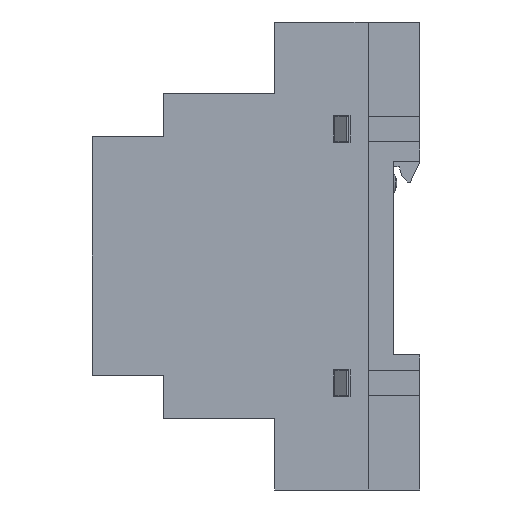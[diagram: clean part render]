
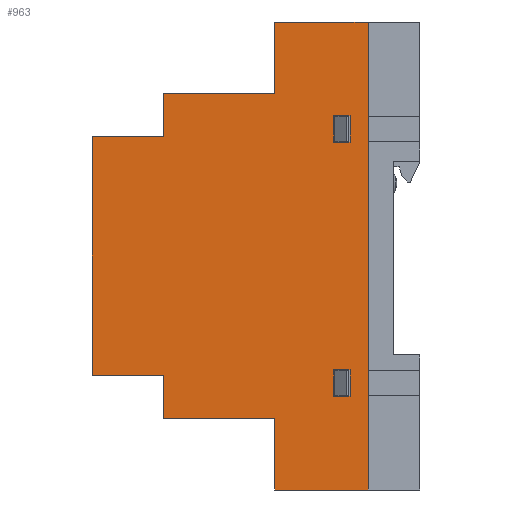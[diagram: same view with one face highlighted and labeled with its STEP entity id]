
A CAD part, left-side view. The second image highlights one B-rep face of the part: STEP entity #963.
In plain terms, the highlighted planar face has unit normal (-1, 0, 0) as drawn and (0, -1, 0) by its records, which use the part's own axes.
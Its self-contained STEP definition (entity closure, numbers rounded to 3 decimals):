
#963=ADVANCED_FACE('',(#5183,#5185,#5187),#5189,.F.);
#5183=FACE_BOUND('',#5184,.T.);
#5184=EDGE_LOOP('',(#8599,#8600,#8601,#8602,#8603,#8604,#8605,#8606,#8607,#8608,
#8609,#8610));
#5185=FACE_BOUND('',#5186,.T.);
#5186=EDGE_LOOP('',(#8611,#8612,#8613,#8614));
#5187=FACE_BOUND('',#5188,.T.);
#5188=EDGE_LOOP('',(#8615,#8616,#8617,#8618));
#5189=PLANE('',#5190);
#5190=AXIS2_PLACEMENT_3D('',#5191,#5192,#5193);
#5191=CARTESIAN_POINT('',(0.,-26.5,0.));
#5192=DIRECTION('',(0.,1.,0.));
#5193=DIRECTION('',(-1.,0.,0.));
#8599=ORIENTED_EDGE('',*,*,#10983,.T.);
#8600=ORIENTED_EDGE('',*,*,#11109,.F.);
#8601=ORIENTED_EDGE('',*,*,#11110,.F.);
#8602=ORIENTED_EDGE('',*,*,#11111,.F.);
#8603=ORIENTED_EDGE('',*,*,#11112,.F.);
#8604=ORIENTED_EDGE('',*,*,#11089,.F.);
#8605=ORIENTED_EDGE('',*,*,#10956,.T.);
#8606=ORIENTED_EDGE('',*,*,#11108,.F.);
#8607=ORIENTED_EDGE('',*,*,#11113,.F.);
#8608=ORIENTED_EDGE('',*,*,#11114,.F.);
#8609=ORIENTED_EDGE('',*,*,#11115,.F.);
#8610=ORIENTED_EDGE('',*,*,#11116,.F.);
#8611=ORIENTED_EDGE('',*,*,#11117,.T.);
#8612=ORIENTED_EDGE('',*,*,#11118,.T.);
#8613=ORIENTED_EDGE('',*,*,#11119,.T.);
#8614=ORIENTED_EDGE('',*,*,#11120,.T.);
#8615=ORIENTED_EDGE('',*,*,#11121,.T.);
#8616=ORIENTED_EDGE('',*,*,#11122,.T.);
#8617=ORIENTED_EDGE('',*,*,#11123,.T.);
#8618=ORIENTED_EDGE('',*,*,#11124,.T.);
#10956=EDGE_CURVE('',#12419,#12424,#12426,.F.);
#10983=EDGE_CURVE('',#12473,#12471,#12474,.F.);
#11089=EDGE_CURVE('',#12419,#12635,#12639,.T.);
#11108=EDGE_CURVE('',#12672,#12424,#12674,.T.);
#11109=EDGE_CURVE('',#12675,#12471,#12676,.T.);
#11110=EDGE_CURVE('',#12677,#12675,#12678,.T.);
#11111=EDGE_CURVE('',#12679,#12677,#12680,.T.);
#11112=EDGE_CURVE('',#12635,#12679,#12681,.T.);
#11113=EDGE_CURVE('',#12682,#12672,#12683,.T.);
#11114=EDGE_CURVE('',#12684,#12682,#12685,.T.);
#11115=EDGE_CURVE('',#12686,#12684,#12687,.T.);
#11116=EDGE_CURVE('',#12473,#12686,#12688,.T.);
#11117=EDGE_CURVE('',#12689,#12690,#12691,.T.);
#11118=EDGE_CURVE('',#12690,#12692,#12693,.T.);
#11119=EDGE_CURVE('',#12692,#12694,#12695,.T.);
#11120=EDGE_CURVE('',#12694,#12689,#12696,.T.);
#11121=EDGE_CURVE('',#12697,#12698,#12699,.T.);
#11122=EDGE_CURVE('',#12698,#12700,#12701,.T.);
#11123=EDGE_CURVE('',#12700,#12702,#12703,.T.);
#11124=EDGE_CURVE('',#12702,#12697,#12704,.T.);
#12419=VERTEX_POINT('',#14957);
#12424=VERTEX_POINT('',#14966);
#12426=LINE('',#14970,#14971);
#12471=VERTEX_POINT('',#15076);
#12473=VERTEX_POINT('',#15080);
#12474=LINE('',#15081,#15082);
#12635=VERTEX_POINT('',#15459);
#12639=LINE('',#15467,#15468);
#12672=VERTEX_POINT('',#15536);
#12674=LINE('',#15540,#15541);
#12675=VERTEX_POINT('',#15543);
#12676=LINE('',#15544,#15545);
#12677=VERTEX_POINT('',#15547);
#12678=LINE('',#15548,#15549);
#12679=VERTEX_POINT('',#15551);
#12680=LINE('',#15552,#15553);
#12681=LINE('',#15555,#15556);
#12682=VERTEX_POINT('',#15558);
#12683=LINE('',#15559,#15560);
#12684=VERTEX_POINT('',#15562);
#12685=LINE('',#15563,#15564);
#12686=VERTEX_POINT('',#15566);
#12687=LINE('',#15567,#15568);
#12688=LINE('',#15570,#15571);
#12689=VERTEX_POINT('',#15573);
#12690=VERTEX_POINT('',#15574);
#12691=LINE('',#15575,#15576);
#12692=VERTEX_POINT('',#15578);
#12693=LINE('',#15579,#15580);
#12694=VERTEX_POINT('',#15582);
#12695=LINE('',#15583,#15584);
#12696=LINE('',#15586,#15587);
#12697=VERTEX_POINT('',#15589);
#12698=VERTEX_POINT('',#15590);
#12699=LINE('',#15591,#15592);
#12700=VERTEX_POINT('',#15594);
#12701=LINE('',#15595,#15596);
#12702=VERTEX_POINT('',#15598);
#12703=LINE('',#15599,#15600);
#12704=LINE('',#15602,#15603);
#14957=CARTESIAN_POINT('',(22.5,-26.5,52.1));
#14966=CARTESIAN_POINT('',(-22.5,-26.5,52.1));
#14970=CARTESIAN_POINT('',(-22.5,-26.5,52.1));
#14971=VECTOR('',#14972,1.);
#14972=DIRECTION('',(1.,0.,0.));
#15076=CARTESIAN_POINT('',(44.175,-26.5,0.));
#15080=CARTESIAN_POINT('',(-44.175,-26.5,0.));
#15081=CARTESIAN_POINT('',(44.175,-26.5,0.));
#15082=VECTOR('',#15083,1.);
#15083=DIRECTION('',(-1.,0.,0.));
#15459=CARTESIAN_POINT('',(22.5,-26.5,38.6));
#15467=CARTESIAN_POINT('',(22.5,-26.5,52.1));
#15468=VECTOR('',#15469,1.);
#15469=DIRECTION('',(0.,0.,-1.));
#15536=CARTESIAN_POINT('',(-22.5,-26.5,38.6));
#15540=CARTESIAN_POINT('',(-22.5,-26.5,38.6));
#15541=VECTOR('',#15542,1.);
#15542=DIRECTION('',(0.,0.,1.));
#15543=CARTESIAN_POINT('',(44.175,-26.5,17.6));
#15544=CARTESIAN_POINT('',(44.175,-26.5,17.6));
#15545=VECTOR('',#15546,1.);
#15546=DIRECTION('',(0.,0.,-1.));
#15547=CARTESIAN_POINT('',(30.7,-26.5,17.6));
#15548=CARTESIAN_POINT('',(30.7,-26.5,17.6));
#15549=VECTOR('',#15550,1.);
#15550=DIRECTION('',(1.,0.,0.));
#15551=CARTESIAN_POINT('',(30.7,-26.5,38.6));
#15552=CARTESIAN_POINT('',(30.7,-26.5,38.6));
#15553=VECTOR('',#15554,1.);
#15554=DIRECTION('',(0.,0.,-1.));
#15555=CARTESIAN_POINT('',(22.5,-26.5,38.6));
#15556=VECTOR('',#15557,1.);
#15557=DIRECTION('',(1.,0.,0.));
#15558=CARTESIAN_POINT('',(-30.7,-26.5,38.6));
#15559=CARTESIAN_POINT('',(-30.7,-26.5,38.6));
#15560=VECTOR('',#15561,1.);
#15561=DIRECTION('',(1.,0.,0.));
#15562=CARTESIAN_POINT('',(-30.7,-26.5,17.6));
#15563=CARTESIAN_POINT('',(-30.7,-26.5,17.6));
#15564=VECTOR('',#15565,1.);
#15565=DIRECTION('',(0.,0.,1.));
#15566=CARTESIAN_POINT('',(-44.175,-26.5,17.6));
#15567=CARTESIAN_POINT('',(-44.175,-26.5,17.6));
#15568=VECTOR('',#15569,1.);
#15569=DIRECTION('',(1.,0.,0.));
#15570=CARTESIAN_POINT('',(-44.175,-26.5,0.));
#15571=VECTOR('',#15572,1.);
#15572=DIRECTION('',(0.,0.,1.));
#15573=CARTESIAN_POINT('',(21.5,-26.5,6.5));
#15574=CARTESIAN_POINT('',(26.5,-26.5,6.5));
#15575=CARTESIAN_POINT('',(21.5,-26.5,6.5));
#15576=VECTOR('',#15577,1.);
#15577=DIRECTION('',(1.,0.,0.));
#15578=CARTESIAN_POINT('',(26.5,-26.5,3.4));
#15579=CARTESIAN_POINT('',(26.5,-26.5,6.5));
#15580=VECTOR('',#15581,1.);
#15581=DIRECTION('',(0.,0.,-1.));
#15582=CARTESIAN_POINT('',(21.5,-26.5,3.4));
#15583=CARTESIAN_POINT('',(26.5,-26.5,3.4));
#15584=VECTOR('',#15585,1.);
#15585=DIRECTION('',(-1.,0.,0.));
#15586=CARTESIAN_POINT('',(21.5,-26.5,3.4));
#15587=VECTOR('',#15588,1.);
#15588=DIRECTION('',(0.,0.,1.));
#15589=CARTESIAN_POINT('',(-26.5,-26.5,6.5));
#15590=CARTESIAN_POINT('',(-21.5,-26.5,6.5));
#15591=CARTESIAN_POINT('',(-26.5,-26.5,6.5));
#15592=VECTOR('',#15593,1.);
#15593=DIRECTION('',(1.,0.,0.));
#15594=CARTESIAN_POINT('',(-21.5,-26.5,3.4));
#15595=CARTESIAN_POINT('',(-21.5,-26.5,6.5));
#15596=VECTOR('',#15597,1.);
#15597=DIRECTION('',(0.,0.,-1.));
#15598=CARTESIAN_POINT('',(-26.5,-26.5,3.4));
#15599=CARTESIAN_POINT('',(-21.5,-26.5,3.4));
#15600=VECTOR('',#15601,1.);
#15601=DIRECTION('',(-1.,0.,0.));
#15602=CARTESIAN_POINT('',(-26.5,-26.5,3.4));
#15603=VECTOR('',#15604,1.);
#15604=DIRECTION('',(0.,0.,1.));
